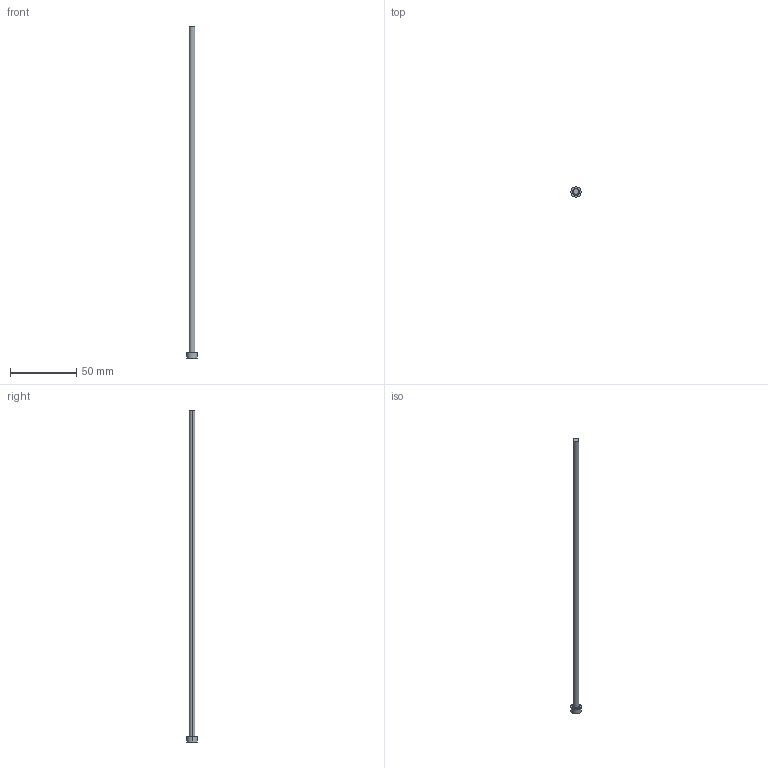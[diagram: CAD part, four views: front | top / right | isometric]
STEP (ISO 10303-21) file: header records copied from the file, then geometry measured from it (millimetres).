
FILE_DESCRIPTION (( 'STEP AP214' ), '1' );
FILE_NAME ('EPH4.5-250.step', '2024-04-11T21:11:50', ( '' ), ( '' ), 'SwSTEP 2.0', 'SolidWorks 2017', '' );
FILE_SCHEMA (( 'AUTOMOTIVE_DESIGN' ));
Length unit declared in the file: millimetre
Products named in the file (1): EPH4.5-250
Bounding box: 8 x 8 x 250 mm (x, y, z)
Volume: 4114.3 mm3; surface area: 3675.9 mm2
Topology: 1 solids, 1 shells, 9 faces, 16 edges, 10 vertices
Faces by surface type: cylinder 4, plane 3, torus 2
Entity records: 260 total; most frequent: DIRECTION 48, CARTESIAN_POINT 36, ORIENTED_EDGE 32, AXIS2_PLACEMENT_3D 22, EDGE_CURVE 16, CIRCLE 12, EDGE_LOOP 10, VERTEX_POINT 10
